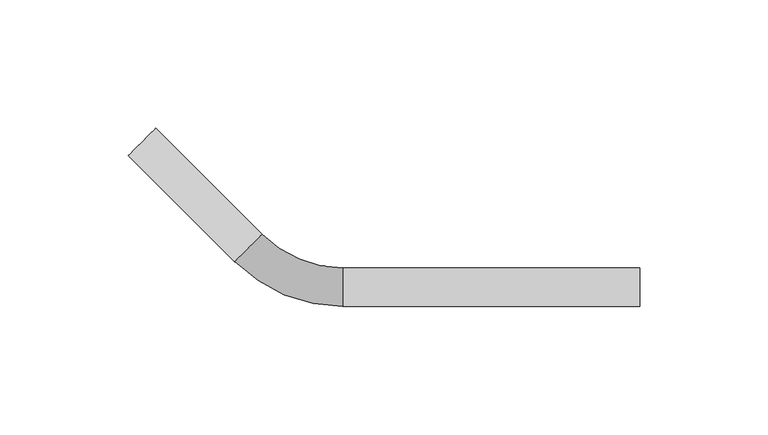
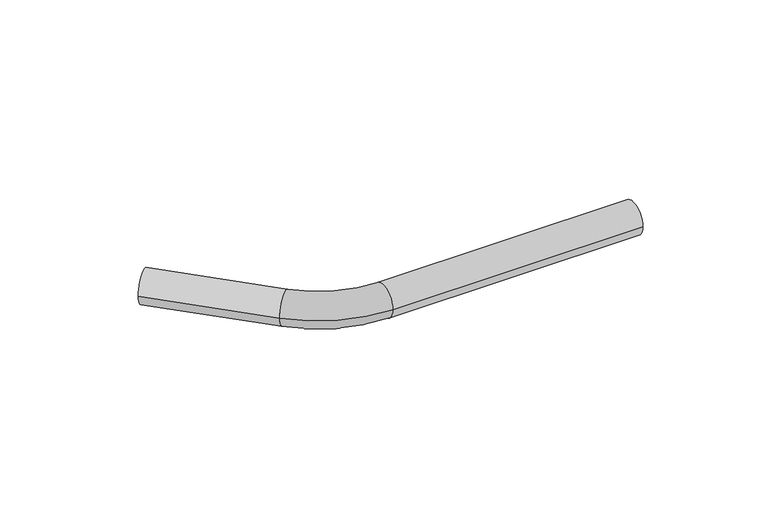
"""IFC4 building model written with IfcOpenShell, lengths in millimetres: pipe fitting geometry, VALTEC_VTi.955.I_Отвод безраструбный_нержавеющая : VTi.955.I."""

import ifcopenshell
import ifcopenshell.guid

model = None  # the IFC model being written
_history = None  # IfcOwnerHistory: only IFC2X3 demands one
_inside = {}  # id of a spatial element -> (the spatial element, [elements in it])
_under = {}  # id of a project, library or spatial element -> (it, [spatial elements below it])
_declared = {}  # id of a project -> (the project, [libraries it declares])
_typed = {}  # id of a type object -> (the type object, [elements of that type])
_made_of = {}  # id of a material, layer set ... -> (it, [elements and type objects made of it])


def new_model(schema):
    """Start an empty IFC model of exactly this schema.

    Asked for "IFC4X3", IfcOpenShell would pick the latest addendum, in which some entities
    have other attributes; the version numbers below select the first issue.
    IFC2X3 requires an IfcOwnerHistory on every rooted entity: one is made here for all.
    """
    global model, _history
    if schema == "IFC4X3":
        model = ifcopenshell.file(schema_version=(4, 3, 0, 0))
    else:
        model = ifcopenshell.file(schema=schema)
    _inside.clear()
    _under.clear()
    _declared.clear()
    _typed.clear()
    _made_of.clear()
    _history = None
    if model.schema == "IFC2X3":
        org = make("IfcOrganization", Name="unknown")
        user = make(
            "IfcPersonAndOrganization",
            ThePerson=make("IfcPerson", FamilyName="unknown"),
            TheOrganization=org,
        )
        app = make(
            "IfcApplication",
            ApplicationDeveloper=org,
            Version="unknown",
            ApplicationFullName="unknown",
            ApplicationIdentifier="unknown",
        )
        _history = make(
            "IfcOwnerHistory",
            OwningUser=user,
            OwningApplication=app,
            ChangeAction="ADDED",
            CreationDate=0,
        )
    return model


def make(cls, **values):
    """One entity of the class cls with the attributes given. An attribute that is None is left unset."""
    return model.create_entity(
        cls, **{name: value for name, value in values.items() if value is not None}
    )


def rooted(cls, **values):
    """An entity with a GlobalId (a new one), such as an element, a storey or a relation."""
    return make(cls, GlobalId=ifcopenshell.guid.new(), OwnerHistory=_history, **values)


def si_unit(unit_type, name, prefix=None):
    """IfcSIUnit, for example si_unit("LENGTHUNIT", "METRE", prefix="MILLI")."""
    return make("IfcSIUnit", UnitType=unit_type, Prefix=prefix, Name=name)


def assignment(units):
    """IfcUnitAssignment: the units of a project."""
    return None if units is None else make("IfcUnitAssignment", Units=units)


def point(xyz):
    """IfcCartesianPoint."""
    return None if xyz is None else make("IfcCartesianPoint", Coordinates=xyz)


def direction(xyz):
    """IfcDirection."""
    return None if xyz is None else make("IfcDirection", DirectionRatios=xyz)


def frame(location, z_axis=None, x_axis=None):
    """IfcAxis2Placement3D, a coordinate frame: its origin and axes. An axis left out is left unset."""
    return make(
        "IfcAxis2Placement3D",
        Location=point(location),
        Axis=direction(z_axis),
        RefDirection=direction(x_axis),
    )


def frame_2d(location, x_axis=None):
    """IfcAxis2Placement2D, a coordinate frame in the plane: its origin and x axis."""
    return make(
        "IfcAxis2Placement2D", Location=point(location), RefDirection=direction(x_axis)
    )


def origin():
    """The frame at (0, 0, 0) with its axes left unset."""
    return frame((0.0, 0.0, 0.0))


def origin_2d():
    """The frame at (0, 0) in the plane with its x axis left unset."""
    return frame_2d((0.0, 0.0))


def place(relative_to, where):
    """IfcLocalPlacement: puts the frame where relative to a parent placement (None: the world)."""
    return make(
        "IfcLocalPlacement", PlacementRelTo=relative_to, RelativePlacement=where
    )


def context(
    kind, dimensions, precision=None, world=None, true_north=None, identifier=None
):
    """IfcGeometricRepresentationContext, for example the 3D "Model" context."""
    return make(
        "IfcGeometricRepresentationContext",
        ContextIdentifier=identifier,
        ContextType=kind,
        CoordinateSpaceDimension=dimensions,
        Precision=precision,
        WorldCoordinateSystem=world,
        TrueNorth=true_north,
    )


def project(units=None, contexts=None):
    """IfcProject with its units and contexts."""
    return rooted(
        "IfcProject",
        Name="project",
        RepresentationContexts=contexts,
        UnitsInContext=assignment(units),
    )


def spatial(cls, under=None, at=None, **own):
    """A site, building, storey or space (cls), placed at a placement, below another one or the project."""
    s = rooted(cls, ObjectPlacement=at, **own)
    if under is not None:
        _under.setdefault(under.id(), (under, []))[1].append(s)
    return s


def circle_curve(where, radius):
    """IfcCircle in the frame where."""
    return make("IfcCircle", Position=where, Radius=radius)


def ellipse_curve(where, semi_axis1, semi_axis2):
    """IfcEllipse in the frame where."""
    return make(
        "IfcEllipse", Position=where, SemiAxis1=semi_axis1, SemiAxis2=semi_axis2
    )


def trimmed(basis, trim1, trim2, sense, master):
    """IfcTrimmedCurve: the piece of a basis curve between two trims."""
    return make(
        "IfcTrimmedCurve",
        BasisCurve=basis,
        Trim1=trim1,
        Trim2=trim2,
        SenseAgreement=sense,
        MasterRepresentation=master,
    )


def segment(curve, same_sense, transition):
    """IfcCompositeCurveSegment."""
    return make(
        "IfcCompositeCurveSegment",
        Transition=transition,
        SameSense=same_sense,
        ParentCurve=curve,
    )


def composite_curve(segments, self_intersect=None):
    """IfcCompositeCurve: segments joined end to end."""
    return make("IfcCompositeCurve", Segments=segments, SelfIntersect=self_intersect)


def outline(outer, holes=None, kind="AREA"):
    """IfcArbitraryClosedProfileDef: a profile drawn as a closed curve; with holes, ...WithVoids."""
    if holes is None:
        return make("IfcArbitraryClosedProfileDef", ProfileType=kind, OuterCurve=outer)
    return make(
        "IfcArbitraryProfileDefWithVoids",
        ProfileType=kind,
        OuterCurve=outer,
        InnerCurves=holes,
    )


def extrude(swept, where, along, depth):
    """IfcExtrudedAreaSolid: the profile swept, set in the frame where, extruded along a direction by depth."""
    return make(
        "IfcExtrudedAreaSolid",
        SweptArea=swept,
        Position=where,
        ExtrudedDirection=direction(along),
        Depth=depth,
    )


def shape(context_of_items, identifier, shape_type, items):
    """IfcShapeRepresentation: the items that make up one representation, for example the "Body"."""
    return make(
        "IfcShapeRepresentation",
        ContextOfItems=context_of_items,
        RepresentationIdentifier=identifier,
        RepresentationType=shape_type,
        Items=items,
    )


def source(mapping_origin, context_of_items, identifier, shape_type, items):
    """IfcRepresentationMap: a shape defined once, which mapped items show again and again."""
    return make(
        "IfcRepresentationMap",
        MappingOrigin=mapping_origin,
        MappedRepresentation=shape(context_of_items, identifier, shape_type, items),
    )


def transform(
    local_origin,
    x_axis=None,
    y_axis=None,
    z_axis=None,
    scale=None,
    scale2=None,
    scale3=None,
    uniform=True,
):
    """IfcCartesianTransformationOperator3D, or its non-uniform kind. x_axis, y_axis, z_axis: its Axis1, 2, 3."""
    if uniform:
        return make(
            "IfcCartesianTransformationOperator3D",
            Axis1=direction(x_axis),
            Axis2=direction(y_axis),
            LocalOrigin=point(local_origin),
            Scale=scale,
            Axis3=direction(z_axis),
        )
    return make(
        "IfcCartesianTransformationOperator3DnonUniform",
        Axis1=direction(x_axis),
        Axis2=direction(y_axis),
        LocalOrigin=point(local_origin),
        Scale=scale,
        Axis3=direction(z_axis),
        Scale2=scale2,
        Scale3=scale3,
    )


def mapped(mapping_source, mapping_target):
    """IfcMappedItem: shows the shape of a source again, moved by a transform."""
    return make(
        "IfcMappedItem", MappingSource=mapping_source, MappingTarget=mapping_target
    )


def made_of(thing, what):
    """Note that an element or type object is made of a material, layer set ...; save() writes the relation."""
    if what is not None:
        _made_of.setdefault(what.id(), (what, []))[1].append(thing)
    return thing


def element(
    cls,
    number,
    at=None,
    inside=None,
    cuts=None,
    type_object=None,
    material=None,
    context=None,
    identifier="Body",
    shape_type=None,
    held_by="IfcProductDefinitionShape",
    body=None,
    shapes=None,
    **own,
):
    """One element of the class cls, such as IfcWall. Its Tag is "e" and its number.

    at: its placement. inside: the storey or other place that contains it. cuts: it is an
    opening in that element (IfcRelVoidsElement). A single representation is given by context,
    identifier, shape_type and body (its items); several are given by shapes. held_by: the class
    of the entity that holds the representations. save() writes the other relations.
    """
    e = rooted(cls, Tag="e%d" % number, ObjectPlacement=at, **own)
    if body is not None:
        shapes = [shape(context, identifier, shape_type, body)]
    if shapes is not None:
        e.Representation = make(held_by, Representations=shapes)
    if inside is not None:
        _inside.setdefault(inside.id(), (inside, []))[1].append(e)
    if cuts is not None:
        rooted(
            "IfcRelVoidsElement", RelatingBuildingElement=cuts, RelatedOpeningElement=e
        )
    if type_object is not None:
        _typed.setdefault(type_object.id(), (type_object, []))[1].append(e)
    return made_of(e, material)


def aggregate(whole, parts):
    """IfcRelAggregates: a whole, such as a stair, and the parts it consists of."""
    return rooted("IfcRelAggregates", RelatingObject=whole, RelatedObjects=parts)


def save(model, path):
    """Write the relations noted so far, then the file.

    IfcRelAggregates (storeys below a building ...), IfcRelContainedInSpatialStructure (elements
    in a storey), IfcRelDefinesByType, IfcRelAssociatesMaterial and IfcRelDeclares: one each for
    every whole, place, type object, material and project.
    """
    for whole, parts in _under.values():
        aggregate(whole, parts)
    for where, things in _inside.values():
        rooted(
            "IfcRelContainedInSpatialStructure",
            RelatedElements=things,
            RelatingStructure=where,
        )
    for kind, things in _typed.values():
        rooted("IfcRelDefinesByType", RelatedObjects=things, RelatingType=kind)
    for what, things in _made_of.values():
        rooted("IfcRelAssociatesMaterial", RelatedObjects=things, RelatingMaterial=what)
    for by, libraries in _declared.values():
        rooted("IfcRelDeclares", RelatingContext=by, RelatedDefinitions=libraries)
    model.write(path)


def plane_surface(at):
    """IfcPlane: the flat surface through the origin of the frame at, square to its z axis."""
    return make("IfcPlane", Position=at)


def revolved_surface(curve, axis_point, axis_direction):
    """IfcSurfaceOfRevolution: the curve turned about the line through axis_point along axis_direction."""
    return make(
        "IfcSurfaceOfRevolution",
        SweptCurve=make("IfcArbitraryOpenProfileDef", ProfileType="CURVE", Curve=curve),
        AxisPosition=make("IfcAxis1Placement", Location=point(axis_point), Axis=direction(axis_direction)),
    )


def advanced_brep(points, edges, surfaces, faces):
    """IfcAdvancedBrep: a solid bounded by faces that lie on surfaces and meet in shared edges.

    An edge is (start, end): straight between two places in points (the first is 0);
    or (start, end, curve); or (start, end, curve, False) where it runs against its curve.
    A face is (place in surfaces, loops), or (place, loops, False) where it looks against
    its surface's normal. A loop lists edges by number (the first is 1), with a minus sign
    where the edge is run from its end to its start. The first loop is the outer one.
    """
    corners = [point(p) for p in points]
    vertices = [make("IfcVertexPoint", VertexGeometry=c) for c in corners]
    made = []
    for start, end, *more in edges:
        made.append(
            make(
                "IfcEdgeCurve",
                EdgeStart=vertices[start],
                EdgeEnd=vertices[end],
                EdgeGeometry=more[0] if more else make("IfcPolyline", Points=[corners[start], corners[end]]),
                SameSense=more[1] if len(more) > 1 else True,
            )
        )
    hull = []
    for where, loops, *sense in faces:
        bounds = []
        for j, loop in enumerate(loops):
            ring = [make("IfcOrientedEdge", EdgeElement=made[abs(k) - 1], Orientation=k > 0) for k in loop]
            bounds.append(
                make(
                    "IfcFaceOuterBound" if j == 0 else "IfcFaceBound",
                    Bound=make("IfcEdgeLoop", EdgeList=ring),
                    Orientation=True,
                )
            )
        hull.append(make("IfcAdvancedFace", Bounds=bounds, FaceSurface=surfaces[where], SameSense=sense[0] if sense else True))
    return make("IfcAdvancedBrep", Outer=make("IfcClosedShell", CfsFaces=hull))


def pipe_fitting_440e3ee1(model_context):
    return source(origin(), model_context, "Body", "SolidModel", [
        advanced_brep(
        [(21.6, -7.5, 0.0), (21.6, 7.5, 0.0), (-20.4728535, 9.9271465, 0.0), (-9.8662518, 20.5337482, 0.0)],
        [
            (0, 1, circle_curve(frame((21.6, 0.0, 0.0), z_axis=(1.0, 0.0, 0.0), x_axis=(0.0, 1.0, 0.0)), 7.5)),
            (1, 0, circle_curve(frame((21.6, 0.0, 0.0), z_axis=(1.0, 0.0, 0.0), x_axis=(0.0, 1.0, 0.0)), 7.5)),
            (2, 3, circle_curve(frame((-15.1695526, 15.2304474, 0.0), z_axis=(-0.7071067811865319, 0.7071067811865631, 0.0), x_axis=(0.7071067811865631, 0.7071067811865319, 0.0)), 7.5)),
            (3, 2, circle_curve(frame((-15.1695526, 15.2304474, 0.0), z_axis=(-0.7071067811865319, 0.7071067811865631, 0.0), x_axis=(0.7071067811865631, 0.7071067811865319, 0.0)), 7.5)),
            (2, 0, circle_curve(frame((21.6, 52.0, 0.0), z_axis=(0.0, 0.0, 1.0), x_axis=(0.0, -1.0, 0.0)), 59.5)),
            (1, 3, circle_curve(frame((21.6, 52.0, 0.0), z_axis=(0.0, 0.0, -1.0), x_axis=(0.0, -1.0, 0.0)), 44.5)),
        ],
        [
            plane_surface(frame((21.6, 0.0, 0.0), z_axis=(1.0, 0.0, 0.0), x_axis=(0.0, 0.0, 1.0))),
            plane_surface(frame((-15.1695526, 15.2304474, 0.0), z_axis=(-0.7071067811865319, 0.7071067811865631, 0.0), x_axis=(0.0, 0.0, 1.0))),
            revolved_surface(trimmed(ellipse_curve(frame((21.6, 0.0, 0.0), z_axis=(-1.0, 0.0, 0.0), x_axis=(0.0, 1.0, 0.0)), 7.5, 7.5), [point((21.6, -7.5, 0.0))], [point((21.6, 7.5, 0.0))], True, "CARTESIAN"), (21.6, 52.0, 0.0), (0.0, 0.0, 1.0)),
            revolved_surface(trimmed(ellipse_curve(frame((21.6, 0.0, 0.0), z_axis=(-1.0, 0.0, 0.0), x_axis=(0.0, 1.0, 0.0)), 7.5, 7.5), [point((21.6, 7.5, 0.0))], [point((21.6, -7.5, 0.0))], True, "CARTESIAN"), (21.6, 52.0, 0.0), (0.0, 0.0, 1.0)),
        ],
        [
            (0, [[1, 2]]),
            (1, [[3, 4]]),
            (2, [[-3, 5, -2, 6]]),
            (3, [[-4, -6, -1, -5]]),
        ],
    ),
        extrude(outline(composite_curve([segment(trimmed(circle_curve(origin_2d(), 7.5), [point((0.0, 7.5000001))], [point((0.0, -7.5000001))], False, "CARTESIAN"), True, "CONTINUOUS"), segment(trimmed(circle_curve(origin_2d(), 7.5), [point((0.0, -7.5000001))], [point((0.0, 7.5000001))], False, "CARTESIAN"), True, "CONTINUOUS")], self_intersect=False)), frame((-15.2027958, 15.2027958, 0.0), z_axis=(-0.7071067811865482, 0.7071067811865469, 0.0), x_axis=(0.0, 0.0, 1.0)), (0.0, 0.0, 1.0), 58.5),
        extrude(outline(composite_curve([segment(trimmed(circle_curve(origin_2d(), 7.5), [point((7.5, 0.0))], [point((-7.5, 0.0))], False, "CARTESIAN"), True, "CONTINUOUS"), segment(trimmed(circle_curve(origin_2d(), 7.5), [point((-7.5, 0.0))], [point((7.5, 0.0))], False, "CARTESIAN"), True, "CONTINUOUS")], self_intersect=False)), frame((21.6, 0.0, 0.0), z_axis=(1.0, 0.0, 0.0), x_axis=(0.0, 1.0, 0.0)), (0.0, 0.0, 1.0), 115.4),
    ])


if __name__ == "__main__":
    model = new_model("IFC4")
    model_context = context("Model", 3, world=origin())
    ifc_project = project(units=[si_unit("LENGTHUNIT", "METRE", prefix="MILLI")], contexts=[model_context])
    site = spatial("IfcSite", under=ifc_project)
    building = spatial("IfcBuilding", under=site)
    placement = place(None, origin())
    pipe_fitting_shape = pipe_fitting_440e3ee1(model_context)
    element("IfcPipeFitting", 1, ObjectType="VALTEC_VTi.955.I_Отвод безраструбный_нержавеющая : VTi.955.I", at=placement, inside=building, context=model_context, shape_type="MappedRepresentation", body=[
        mapped(pipe_fitting_shape, transform((0.0, 0.0, 0.0), x_axis=(1.0, 0.0, 0.0), y_axis=(0.0, 1.0, 0.0), z_axis=(0.0, 0.0, 1.0))),
    ])
    save(model, "model.ifc")
